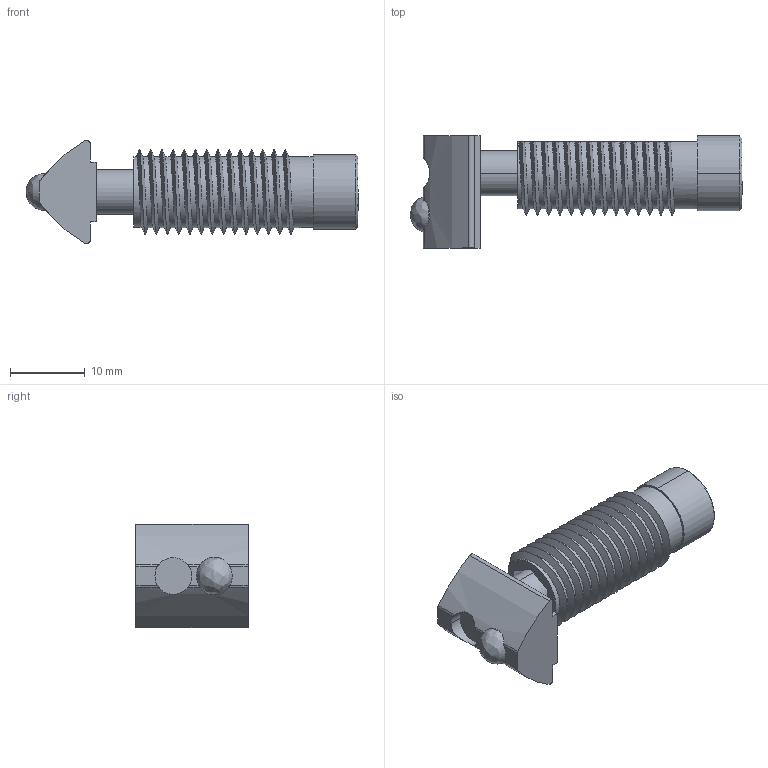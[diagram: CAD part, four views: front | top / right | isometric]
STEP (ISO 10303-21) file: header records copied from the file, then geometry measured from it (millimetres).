
FILE_DESCRIPTION (( 'STEP AP214' ), '1' );
FILE_NAME ('10122_EINSTZ8.30.STEP', '2016-10-19T09:59:57', ( '' ), ( '' ), 'SwSTEP 2.0', 'SolidWorks 2016', '' );
FILE_SCHEMA (( 'AUTOMOTIVE_DESIGN' ));
Length unit declared in the file: millimetre
Products named in the file (1): 10122_EINSTZ8.30
Bounding box: 44.4 x 15 x 13.8 mm (x, y, z)
Volume: 3311.5 mm3; surface area: 3599.4 mm2
Topology: 3 solids, 3 shells, 107 faces, 285 edges, 186 vertices
Faces by surface type: cylinder 36, plane 36, bspline 31, cone 4
Entity records: 6542 total; most frequent: CARTESIAN_POINT 4076, ORIENTED_EDGE 570, DIRECTION 371, EDGE_CURVE 285, VERTEX_POINT 186, AXIS2_PLACEMENT_3D 125, LINE 121, VECTOR 121
